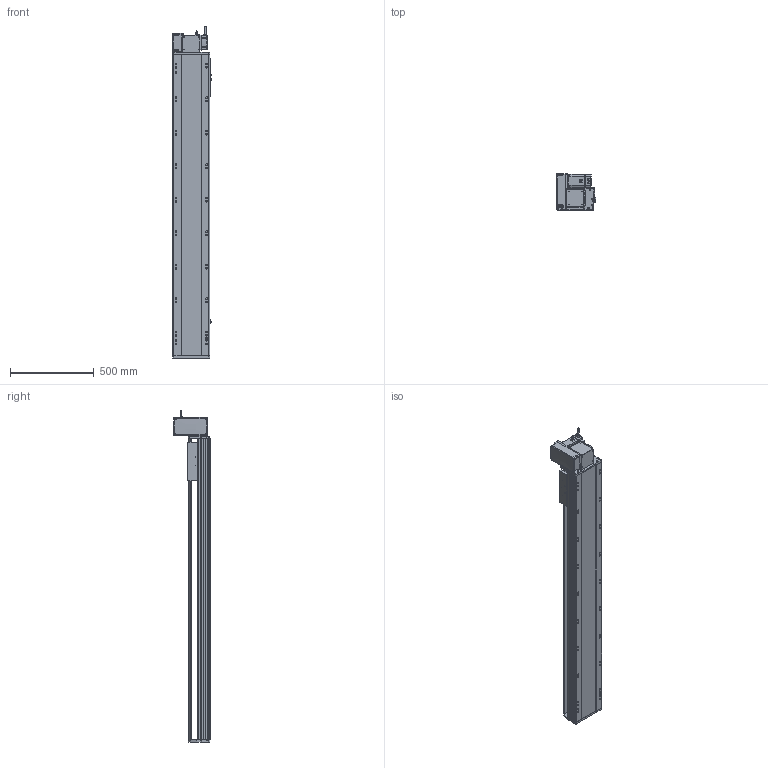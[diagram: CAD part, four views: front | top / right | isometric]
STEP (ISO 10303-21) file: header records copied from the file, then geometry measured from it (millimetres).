
FILE_DESCRIPTION (( 'STEP AP214' ), '1' );
FILE_NAME ('RTB22S-XX-1450-LW-M75-C4.STEP', '2025-12-12T05:57:33', ( '' ), ( '' ), 'SwSTEP 2.0', 'SolidWorks 2018', '' );
FILE_SCHEMA (( 'AUTOMOTIVE_DESIGN' ));
Length unit declared in the file: millimetre
Products named in the file (14): RTH22-GY-013外置感应片^RTB22S-XX-XX-LW-M75-C4; OMRON EE-SX672 传感器^RTB22S-XX-XX-LW-M75-C4; RTB22S-L-011菁釱^RTB22S-XX-XX-LW-M75-C4; RTB22S-GY-018P^RTB22S-LW-々湍釱蚾饜_RTB22S-XX-XX-LW-M75-C4; RTB22S-GY-017P^RTB22S-LW-々湍釱蚾饜_RTB22S-XX-XX-LW-M75-C4; RTB22S-GY-014--々湍釱^RTB22S-LW-々湍釱蚾饜_RTB22S-XX-XX-LW-M75-C4; RTB22S-LW-々湍釱蚾饜^RTB22S-XX-XX-LW-M75-C4; RTB22S-GY-008-M75--萇儂啣^RTB22S-LW-々湍釱蚾饜_RTB22S-XX-XX-LW-M75-C4; RTB22S-GY-001耜裔^RTB22S-XX-XX-LW-M75-C4; RTB22S-GY-005P^RTB22S-LW-々湍釱蚾饜_RTB22S-XX-XX-LW-M75-C4; RTB22S-L-004賑釱^RTB22S-XX-XX-LW-M75-C4; RTB22S-GY-007奻裔^RTB22S-XX-XX-LW-M75-C4; 750W萇儂^RTB22S-XX-XX-LW-M75-C4; RTB22S-XX-1450-LW-M75-C4
Assembly tree (16 placements, depth 3):
  RTB22S-XX-1450-LW-M75-C4
    RTB22S-L-011菁釱^RTB22S-XX-XX-LW-M75-C4
    RTB22S-GY-001耜裔^RTB22S-XX-XX-LW-M75-C4
    750W萇儂^RTB22S-XX-XX-LW-M75-C4
    RTB22S-GY-007奻裔^RTB22S-XX-XX-LW-M75-C4
    RTB22S-L-004賑釱^RTB22S-XX-XX-LW-M75-C4
    RTH22-GY-013外置感应片^RTB22S-XX-XX-LW-M75-C4
    OMRON EE-SX672 传感器^RTB22S-XX-XX-LW-M75-C4  x3
    RTB22S-LW-々湍釱蚾饜^RTB22S-XX-XX-LW-M75-C4
      RTB22S-GY-014--々湍釱^RTB22S-LW-々湍釱蚾饜_RTB22S-XX-XX-LW-M75-C4
      RTB22S-GY-017P^RTB22S-LW-々湍釱蚾饜_RTB22S-XX-XX-LW-M75-C4  x2
      RTB22S-GY-005P^RTB22S-LW-々湍釱蚾饜_RTB22S-XX-XX-LW-M75-C4
      RTB22S-GY-008-M75--萇儂啣^RTB22S-LW-々湍釱蚾饜_RTB22S-XX-XX-LW-M75-C4
      RTB22S-GY-018P^RTB22S-LW-々湍釱蚾饜_RTB22S-XX-XX-LW-M75-C4
Bounding box: 238.5 x 215.5 x 1982.2 mm (x, y, z)
Volume: 26527767 mm3; surface area: 2741778.6 mm2
Topology: 15 solids, 15 shells, 2019 faces, 5486 edges, 3512 vertices
Faces by surface type: plane 919, cylinder 646, bspline 296, cone 146, sphere 8, torus 4
Entity records: 54084 total; most frequent: CARTESIAN_POINT 15468, ORIENTED_EDGE 7744, DIRECTION 7486, EDGE_CURVE 3872, AXIS2_PLACEMENT_3D 2654, VERTEX_POINT 2516, LINE 2178, VECTOR 2178
